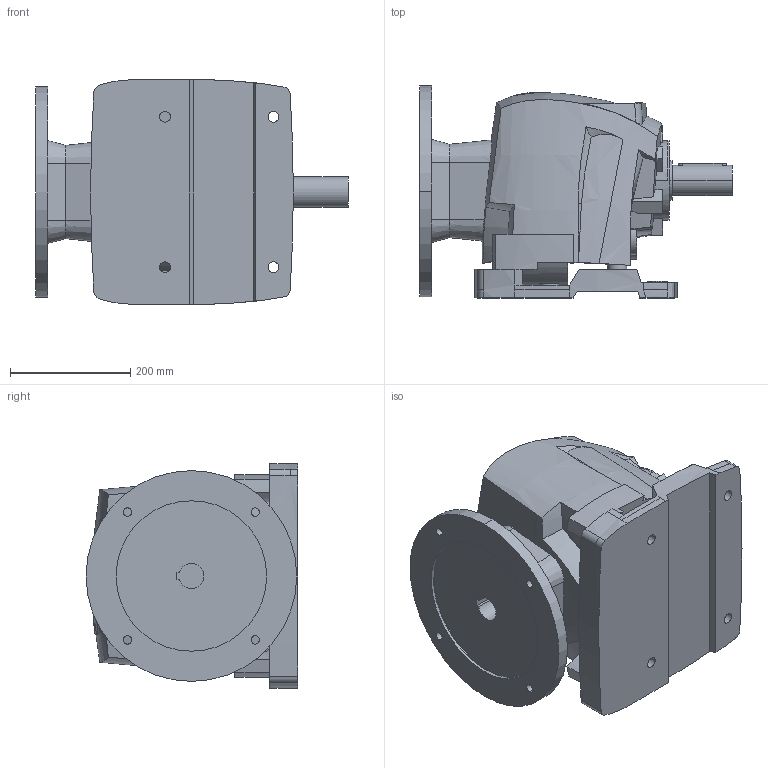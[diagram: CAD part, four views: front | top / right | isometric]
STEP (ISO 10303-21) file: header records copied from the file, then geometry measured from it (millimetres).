
FILE_DESCRIPTION((''),'2;1');
FILE_NAME('R50_BF_PAM160','2013-12-19T',('Luca'),(''),'PRO/ENGINEER BY PARAMETRIC TECHNOLOGY CORPORATION, 2008230','PRO/ENGINEER BY PARAMETRIC TECHNOLOGY CORPORATION, 2008230','');
FILE_SCHEMA(('CONFIG_CONTROL_DESIGN'));
Length unit declared in the file: millimetre
Products named in the file (1): R50_BF_PAM160
Bounding box: 519.5 x 352 x 373.02 mm (x, y, z)
Volume: 28438056.4 mm3; surface area: 1050325.1 mm2
Topology: 1 solids, 1 shells, 431 faces, 1207 edges, 806 vertices
Faces by surface type: plane 188, cylinder 135, bspline 82, cone 13, torus 7, extrusion 6
Entity records: 18471 total; most frequent: CARTESIAN_POINT 7883, ORIENTED_EDGE 2410, DIRECTION 1867, EDGE_CURVE 1205, VERTEX_POINT 806, AXIS2_PLACEMENT_3D 647, VECTOR 573, LINE 567
